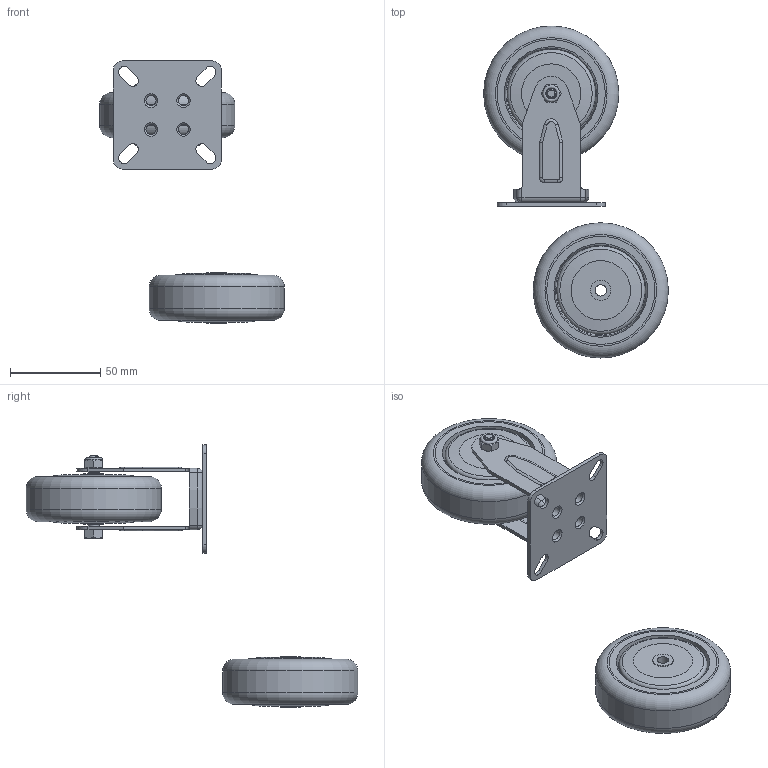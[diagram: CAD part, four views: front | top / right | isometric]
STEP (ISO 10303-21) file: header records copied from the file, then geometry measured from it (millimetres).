
FILE_DESCRIPTION(('STEP AP203'),'1');
FILE_NAME('E:/Pomoc/Strongo/343a39J075rZPC.stp',' ',(' '),(' '),'XStep 1.0',' ',' ');
FILE_SCHEMA(('CONFIG_CONTROL_DESIGN'));
Length unit declared in the file: metre
Products named in the file (3): Assembly214; Assembly163; Assembly58
Bounding box: 102.5 x 184 x 145.4 mm (x, y, z)
Volume: 181556.4 mm3; surface area: 133261.7 mm2
Topology: 38 solids, 38 shells, 2462 faces, 6814 edges, 4508 vertices
Faces by surface type: plane 1900, cylinder 283, cone 147, torus 71, sphere 36, bspline 25
Full cylindrical faces by diameter (mm): 1.384 x4, 2.676 x2, 5 x1, 5.6 x8, 6 x15, 6.2 x4, 6.3 x4, 7.4 x8, 7.8 x8, 10 x14, 11.3 x4, 13.4 x4, 14 x4, 22.4 x4, 23 x4, 26 x4, 47.4 x4, 49 x4, 60 x4, 75 x2
Entity records: 42448 total; most frequent: CARTESIAN_POINT 11105, ORIENTED_EDGE 6580, DIRECTION 6024, EDGE_CURVE 3290, LINE 2720, VECTOR 2720, VERTEX_POINT 2228, AXIS2_PLACEMENT_3D 1652
